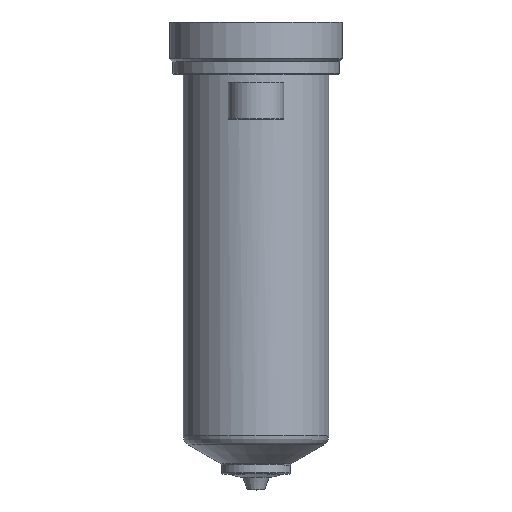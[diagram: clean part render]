
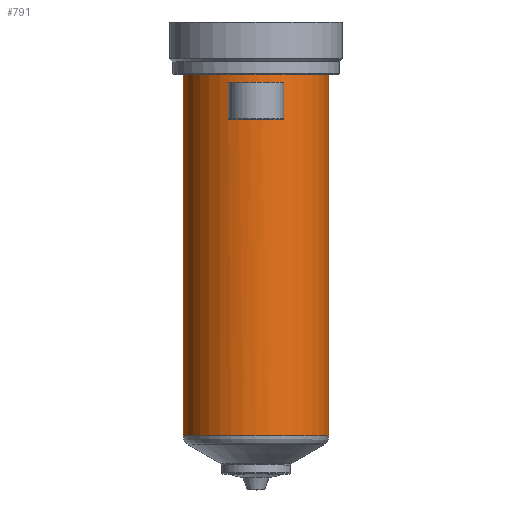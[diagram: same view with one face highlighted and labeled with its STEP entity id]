
A CAD part, top view. The second image highlights one B-rep face of the part: STEP entity #791.
In plain terms, the highlighted cylindrical face has radius 21 mm (diameter 42 mm), a partial arc.
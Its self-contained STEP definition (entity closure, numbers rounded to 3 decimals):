
#199=DIRECTION('',(0.,-1.,0.));
#200=VECTOR('',#199,104.428);
#201=CARTESIAN_POINT('',(21.,0.,0.));
#202=LINE('',#201,#200);
#203=CARTESIAN_POINT('',(0.,-104.428,0.));
#204=DIRECTION('',(0.,1.,0.));
#205=DIRECTION('',(-1.,0.,0.));
#206=AXIS2_PLACEMENT_3D('',#203,#204,#205);
#208=DIRECTION('',(0.,1.,0.));
#209=VECTOR('',#208,104.428);
#210=CARTESIAN_POINT('',(-21.,-104.428,0.));
#211=LINE('',#210,#209);
#212=CARTESIAN_POINT('',(0.,0.,0.));
#213=DIRECTION('',(0.,1.,0.));
#214=DIRECTION('',(-1.,0.,0.));
#215=AXIS2_PLACEMENT_3D('',#212,#213,#214);
#361=DIRECTION('',(0.,-1.,0.));
#362=VECTOR('',#361,10.5);
#363=CARTESIAN_POINT('',(-8.,-2.5,19.416));
#364=LINE('',#363,#362);
#365=CARTESIAN_POINT('',(0.,-13.,0.));
#366=DIRECTION('',(0.,1.,0.));
#367=DIRECTION('',(-0.381,0.,0.925));
#368=AXIS2_PLACEMENT_3D('',#365,#366,#367);
#391=CARTESIAN_POINT('',(0.,-2.5,0.));
#392=DIRECTION('',(0.,-1.,0.));
#393=DIRECTION('',(0.381,0.,0.925));
#394=AXIS2_PLACEMENT_3D('',#391,#392,#393);
#409=DIRECTION('',(0.,-1.,0.));
#410=VECTOR('',#409,10.5);
#411=CARTESIAN_POINT('',(8.,-2.5,19.416));
#412=LINE('',#411,#410);
#470=CARTESIAN_POINT('',(-21.,0.,0.));
#471=CARTESIAN_POINT('',(21.,0.,0.));
#472=VERTEX_POINT('',#470);
#473=VERTEX_POINT('',#471);
#482=CARTESIAN_POINT('',(-8.,-2.5,19.416));
#483=VERTEX_POINT('',#482);
#484=CARTESIAN_POINT('',(8.,-2.5,19.416));
#485=VERTEX_POINT('',#484);
#522=CARTESIAN_POINT('',(21.,-104.428,0.));
#523=VERTEX_POINT('',#522);
#532=CARTESIAN_POINT('',(-21.,-104.428,0.));
#533=VERTEX_POINT('',#532);
#550=CARTESIAN_POINT('',(-8.,-13.,19.416));
#551=CARTESIAN_POINT('',(8.,-13.,19.416));
#552=VERTEX_POINT('',#550);
#553=VERTEX_POINT('',#551);
#769=CARTESIAN_POINT('',(0.,16.4,0.));
#770=DIRECTION('',(0.,-1.,0.));
#771=DIRECTION('',(-1.,0.,0.));
#772=AXIS2_PLACEMENT_3D('',#769,#770,#771);
#773=CYLINDRICAL_SURFACE('',#772,21.);
#774=ORIENTED_EDGE('',*,*,#763,.T.);
#776=ORIENTED_EDGE('',*,*,#775,.F.);
#777=ORIENTED_EDGE('',*,*,#759,.T.);
#778=ORIENTED_EDGE('',*,*,#749,.T.);
#779=EDGE_LOOP('',(#774,#776,#777,#778));
#780=FACE_OUTER_BOUND('',#779,.F.);
#782=ORIENTED_EDGE('',*,*,#781,.T.);
#784=ORIENTED_EDGE('',*,*,#783,.T.);
#786=ORIENTED_EDGE('',*,*,#785,.F.);
#788=ORIENTED_EDGE('',*,*,#787,.T.);
#789=EDGE_LOOP('',(#782,#784,#786,#788));
#790=FACE_BOUND('',#789,.F.);
#791=ADVANCED_FACE('',(#780,#790),#773,.T.);
#207=CIRCLE('',#206,21.);
#216=CIRCLE('',#215,21.);
#369=CIRCLE('',#368,21.);
#395=CIRCLE('',#394,21.);
#749=EDGE_CURVE('',#472,#473,#216,.T.);
#759=EDGE_CURVE('',#533,#472,#211,.T.);
#763=EDGE_CURVE('',#473,#523,#202,.T.);
#775=EDGE_CURVE('',#533,#523,#207,.T.);
#781=EDGE_CURVE('',#483,#552,#364,.T.);
#783=EDGE_CURVE('',#552,#553,#369,.T.);
#785=EDGE_CURVE('',#485,#553,#412,.T.);
#787=EDGE_CURVE('',#485,#483,#395,.T.);
